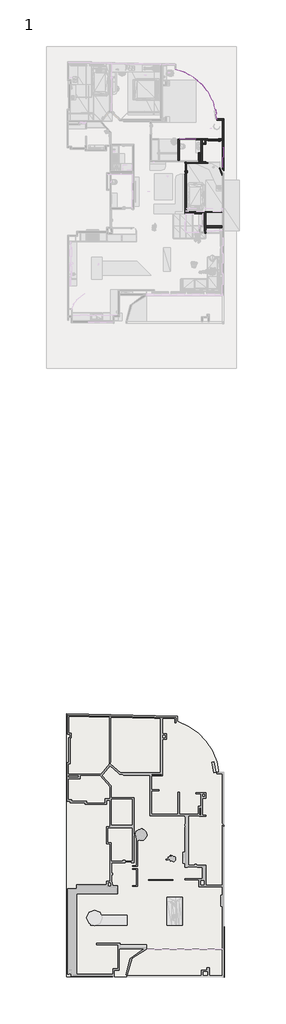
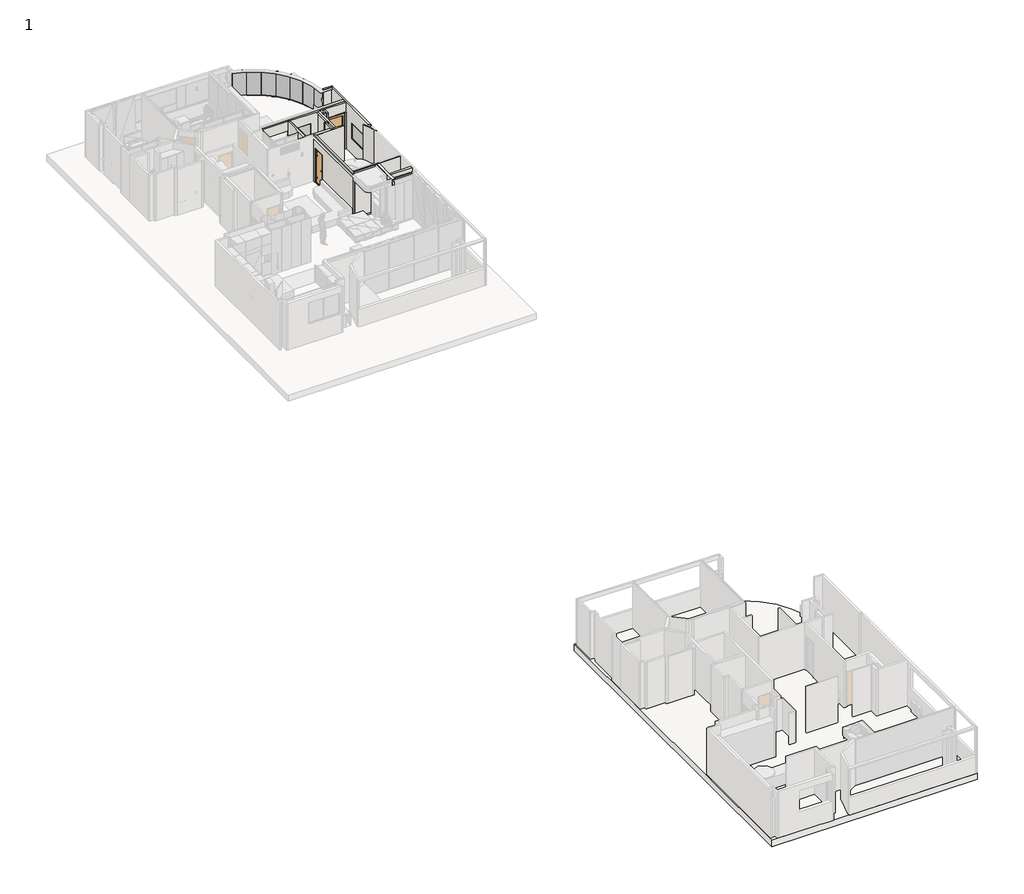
# One storey, part 7 of 11: 31 members, 22 walls, 10 plates, 2 doors, 1 slab.
"""IFC4 building model written with IfcOpenShell, lengths in millimetres."""

from ifc_helpers import new_model, si_unit, point, frame, frame_2d, origin, origin_with_axes, place, context, project, spatial, polyline, circle_curve, trimmed, segment, composite_curve, outline, extrude, faceted_brep, transform, mapped, element, save
from ifc_brep_helpers import plane_surface, revolved_surface, advanced_brep
from components import door_e8a2ffe3, door_630a3fa6, rectangular_mullion_30mm_square_d98c7422, rectangular_mullion_30mm_square_ba462b89, rectangular_mullion_30mm_square_e9650f26, rectangular_mullion_30mm_square_90ac73ab, rectangular_mullion_30mm_square_67cf9652, rectangular_mullion_30mm_square_5ef435d1, rectangular_mullion_rectangular_mullion_fg_bottom_20mm_7ce49348, rectangular_mullion_rectangular_mullion_fg_bottom_20mm_b0543de7, rectangular_mullion_rectangular_mullion_fg_right_20mm_ced86535, rectangular_mullion_rectangular_mullion_fg_top_20mm_b5ec766e, rectangular_mullion_rectangular_mullion_fg_top_20mm_3f20b25a, rectangular_mullion_rectangular_mullion_fg_top_20mm_16574b92, rectangular_mullion_rectangular_mullion_fg_vertical_20_200451c2, plate_da70822d, plate_e5ab7671, plate_d9877c03

model = new_model("IFC4")

# Units and contexts
model_context = context("Model", 3, world=origin())
ifc_project = project(units=[si_unit("LENGTHUNIT", "METRE", prefix="MILLI")], contexts=[model_context])

# Site, building, storey
site = spatial("IfcSite", under=ifc_project)
building = spatial("IfcBuilding", under=site)
storey = spatial("IfcBuildingStorey", under=building, Name="1", Elevation=0.0)

# Doors
placement = place(None, origin())
door_shape = door_e8a2ffe3(model_context)
element("IfcDoor", 1, ObjectType="Porte vitrée MéO : Porte vitrée MéO", at=placement, inside=storey, context=model_context, shape_type="MappedRepresentation", body=[
    mapped(door_shape, transform((98958.9736341, 19992.3905873, 0.0), x_axis=(1.0, 0.0, 0.0), y_axis=(0.0, 1.0, 0.0), z_axis=(0.0, 0.0, 1.0))),
])
door_2_shape = door_630a3fa6(model_context)
element("IfcDoor", 2, ObjectType="JW_Interior_Door_Steady_411_Single_1.0 : 790 x 1890 mm - M8 x M19 2 gray 2", at=placement, inside=storey, context=model_context, shape_type="MappedRepresentation", body=[
    mapped(door_2_shape, transform((96723.359081, 17729.4281393, 0.0), x_axis=(0.0, 1.0, 0.0), y_axis=(-1.0, 0.0, 0.0), z_axis=(0.0, 0.0, 1.0))),
])

# Members
rectangular_mullion_30mm_square_shape = rectangular_mullion_30mm_square_d98c7422(model_context)
element("IfcMember", 3, ObjectType="Rectangular Mullion : 30mm Square", at=placement, inside=storey, context=model_context, shape_type="MappedRepresentation", body=[
    mapped(rectangular_mullion_30mm_square_shape, transform((99648.9736341, 19368.5737587, 1941.4512315), x_axis=(0.0, 0.0, 1.0), y_axis=(1.0, 0.0, 0.0), z_axis=(0.0, 1.0, 0.0))),
])
element("IfcMember", 4, ObjectType="Rectangular Mullion : 30mm Square", at=placement, inside=storey, context=model_context, shape_type="MappedRepresentation", body=[
    mapped(rectangular_mullion_30mm_square_shape, transform((99648.9736341, 17828.5737587, 953.2437697), x_axis=(0.0, 0.0, -1.0), y_axis=(1.0, 0.0, 0.0), z_axis=(0.0, -1.0, 0.0))),
])
rectangular_mullion_30mm_square_2_shape = rectangular_mullion_30mm_square_ba462b89(model_context)
element("IfcMember", 5, ObjectType="Rectangular Mullion : 30mm Square", at=placement, inside=storey, context=model_context, shape_type="MappedRepresentation", body=[
    mapped(rectangular_mullion_30mm_square_2_shape, transform((99648.9736341, 19398.5737587, 953.2437697), x_axis=(0.0, 1.0, 0.0), y_axis=(1.0, 0.0, 0.0), z_axis=(0.0, 0.0, -1.0))),
])
element("IfcMember", 6, ObjectType="Rectangular Mullion : 30mm Square", at=placement, inside=storey, context=model_context, shape_type="MappedRepresentation", body=[
    mapped(rectangular_mullion_30mm_square_2_shape, transform((99648.9736341, 17798.5737587, 1941.4512315), x_axis=(0.0, -1.0, 0.0), y_axis=(1.0, 0.0, 0.0), z_axis=(0.0, 0.0, 1.0))),
])
rectangular_mullion_30mm_square_3_shape = rectangular_mullion_30mm_square_e9650f26(model_context)
element("IfcMember", 7, ObjectType="Rectangular Mullion : 30mm Square", at=placement, inside=storey, context=model_context, shape_type="MappedRepresentation", body=[
    mapped(rectangular_mullion_30mm_square_3_shape, transform((96254.9879055, 20015.7813206, 2320.0), x_axis=(0.0, 0.0, 1.0), y_axis=(0.0, 1.0, 0.0), z_axis=(-1.0, 0.0, 0.0))),
])
rectangular_mullion_30mm_square_4_shape = rectangular_mullion_30mm_square_90ac73ab(model_context)
element("IfcMember", 8, ObjectType="Rectangular Mullion : 30mm Square", at=placement, inside=storey, context=model_context, shape_type="MappedRepresentation", body=[
    mapped(rectangular_mullion_30mm_square_4_shape, transform((97496.0847603, 20015.7813206, 0.0), x_axis=(0.0, 0.0, -1.0), y_axis=(0.0, 1.0, 0.0), z_axis=(1.0, 0.0, 0.0))),
])
element("IfcMember", 9, ObjectType="Rectangular Mullion : 30mm Square", at=placement, inside=storey, context=model_context, shape_type="MappedRepresentation", body=[
    mapped(rectangular_mullion_30mm_square_4_shape, transform((96741.0847603, 20015.7813206, 2320.0), x_axis=(0.0, 0.0, 1.0), y_axis=(0.0, 1.0, 0.0), z_axis=(-1.0, 0.0, 0.0))),
])
element("IfcMember", 10, ObjectType="Rectangular Mullion : 30mm Square", at=placement, inside=storey, context=model_context, shape_type="MappedRepresentation", body=[
    mapped(rectangular_mullion_30mm_square_3_shape, transform((96711.0847603, 20015.7813206, 0.0), x_axis=(0.0, 0.0, -1.0), y_axis=(0.0, 1.0, 0.0), z_axis=(1.0, 0.0, 0.0))),
])
rectangular_mullion_30mm_square_5_shape = rectangular_mullion_30mm_square_67cf9652(model_context)
element("IfcMember", 11, ObjectType="Rectangular Mullion : 30mm Square", at=placement, inside=storey, context=model_context, shape_type="MappedRepresentation", body=[
    mapped(rectangular_mullion_30mm_square_5_shape, transform((96726.0847603, 20015.7813206, 0.0), x_axis=(-1.0, 0.0, 0.0), y_axis=(0.0, 1.0, 0.0), z_axis=(0.0, 0.0, -1.0))),
])
rectangular_mullion_30mm_square_6_shape = rectangular_mullion_30mm_square_5ef435d1(model_context)
element("IfcMember", 12, ObjectType="Rectangular Mullion : 30mm Square", at=placement, inside=storey, context=model_context, shape_type="MappedRepresentation", body=[
    mapped(rectangular_mullion_30mm_square_6_shape, transform((96224.9879055, 20015.7813206, 0.0), x_axis=(-1.0, 0.0, 0.0), y_axis=(0.0, 1.0, 0.0), z_axis=(0.0, 0.0, -1.0))),
])
element("IfcMember", 13, ObjectType="Rectangular Mullion : 30mm Square", at=placement, inside=storey, context=model_context, shape_type="MappedRepresentation", body=[
    mapped(rectangular_mullion_30mm_square_6_shape, transform((97526.0847603, 20015.7813206, 2320.0), x_axis=(1.0, 0.0, 0.0), y_axis=(0.0, 1.0, 0.0), z_axis=(0.0, 0.0, 1.0))),
])
rectangular_mullion_rectangular_mullion_fg_bottom_20mm_shape = rectangular_mullion_rectangular_mullion_fg_bottom_20mm_7ce49348(model_context)
element("IfcMember", 14, ObjectType="Rectangular Mullion : Rectangular Mullion-FG Bottom 20mm", at=placement, inside=storey, context=model_context, shape_type="MappedRepresentation", body=[
    mapped(rectangular_mullion_rectangular_mullion_fg_bottom_20mm_shape, transform((96656.0133049, 25186.2590743, 1217.4752087), x_axis=(0.0, 0.0, -1.0), y_axis=(-0.48894831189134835, -0.8723127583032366, 0.0), z_axis=(-0.8723127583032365, 0.4889483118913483, 0.0))),
])
element("IfcMember", 15, ObjectType="Rectangular Mullion : Rectangular Mullion-FG Bottom 20mm", at=placement, inside=storey, context=model_context, shape_type="MappedRepresentation", body=[
    mapped(rectangular_mullion_rectangular_mullion_fg_bottom_20mm_shape, transform((97331.1362465, 24807.8395001, 1217.4752087), x_axis=(0.0, 0.0, -1.0), y_axis=(-0.6403779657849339, -0.7680599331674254, 0.0), z_axis=(-0.7680599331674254, 0.6403779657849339, 0.0))),
])
element("IfcMember", 16, ObjectType="Rectangular Mullion : Rectangular Mullion-FG Bottom 20mm", at=placement, inside=storey, context=model_context, shape_type="MappedRepresentation", body=[
    mapped(rectangular_mullion_rectangular_mullion_fg_bottom_20mm_shape, transform((97925.5731344, 24312.2215559, 1217.4752087), x_axis=(0.0, 0.0, -1.0), y_axis=(-0.7701631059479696, -0.6378469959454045, 0.0), z_axis=(-0.6378469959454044, 0.7701631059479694, 0.0))),
])
element("IfcMember", 17, ObjectType="Rectangular Mullion : Rectangular Mullion-FG Bottom 20mm", at=placement, inside=storey, context=model_context, shape_type="MappedRepresentation", body=[
    mapped(rectangular_mullion_rectangular_mullion_fg_bottom_20mm_shape, transform((98419.2322447, 23716.1569259, 1217.4752087), x_axis=(0.0, 0.0, -1.0), y_axis=(-0.8739170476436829, -0.4860750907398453, 0.0), z_axis=(-0.4860750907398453, 0.8739170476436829, 0.0))),
])
element("IfcMember", 18, ObjectType="Rectangular Mullion : Rectangular Mullion-FG Bottom 20mm", at=placement, inside=storey, context=model_context, shape_type="MappedRepresentation", body=[
    mapped(rectangular_mullion_rectangular_mullion_fg_bottom_20mm_shape, transform((98795.428101, 23039.7923511, 1217.4752087), x_axis=(0.0, 0.0, -1.0), y_axis=(-0.9481329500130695, -0.31787404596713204, 0.0), z_axis=(-0.317874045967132, 0.9481329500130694, 0.0))),
])
rectangular_mullion_rectangular_mullion_fg_bottom_20mm_2_shape = rectangular_mullion_rectangular_mullion_fg_bottom_20mm_b0543de7(model_context)
element("IfcMember", 19, ObjectType="Rectangular Mullion : Rectangular Mullion-FG Bottom 20mm", at=placement, inside=storey, context=model_context, shape_type="MappedRepresentation", body=[
    mapped(rectangular_mullion_rectangular_mullion_fg_bottom_20mm_2_shape, transform((99041.445437, 22305.9886779, 1217.4752087), x_axis=(0.0, 0.0, -1.0), y_axis=(-0.9903023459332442, -0.13892898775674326, 0.0), z_axis=(-0.13892898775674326, 0.9903023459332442, 0.0))),
])
rectangular_mullion_rectangular_mullion_fg_right_20mm_shape = rectangular_mullion_rectangular_mullion_fg_right_20mm_ced86535(model_context)
element("IfcMember", 20, ObjectType="Rectangular Mullion : Rectangular Mullion-FG Right 20mm", at=placement, inside=storey, context=model_context, shape_type="MappedRepresentation", body=[
    mapped(rectangular_mullion_rectangular_mullion_fg_right_20mm_shape, transform((99148.9689674, 21539.5481667, 1237.4752087), x_axis=(0.13892898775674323, -0.9903023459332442, 0.0), y_axis=(-0.9903023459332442, -0.13892898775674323, 0.0), z_axis=(0.0, 0.0, -1.0))),
])
rectangular_mullion_rectangular_mullion_fg_top_20mm_shape = rectangular_mullion_rectangular_mullion_fg_top_20mm_b5ec766e(model_context)
element("IfcMember", 21, ObjectType="Rectangular Mullion : Rectangular Mullion-FG Top 20mm", at=placement, inside=storey, context=model_context, shape_type="MappedRepresentation", body=[
    mapped(rectangular_mullion_rectangular_mullion_fg_top_20mm_shape, transform((97331.1362465, 24807.8395001, 2823.8206794), x_axis=(0.0, 0.0, 1.0), y_axis=(-0.48894831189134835, -0.8723127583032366, 0.0), z_axis=(0.8723127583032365, -0.4889483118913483, 0.0))),
])
element("IfcMember", 22, ObjectType="Rectangular Mullion : Rectangular Mullion-FG Top 20mm", at=placement, inside=storey, context=model_context, shape_type="MappedRepresentation", body=[
    mapped(rectangular_mullion_rectangular_mullion_fg_top_20mm_shape, transform((97925.5731344, 24312.2215559, 2823.8206794), x_axis=(0.0, 0.0, 1.0), y_axis=(-0.6403779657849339, -0.7680599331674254, 0.0), z_axis=(0.7680599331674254, -0.6403779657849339, 0.0))),
])
element("IfcMember", 23, ObjectType="Rectangular Mullion : Rectangular Mullion-FG Top 20mm", at=placement, inside=storey, context=model_context, shape_type="MappedRepresentation", body=[
    mapped(rectangular_mullion_rectangular_mullion_fg_top_20mm_shape, transform((98419.2322447, 23716.1569259, 2823.8206794), x_axis=(0.0, 0.0, 1.0), y_axis=(-0.7701631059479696, -0.6378469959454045, 0.0), z_axis=(0.6378469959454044, -0.7701631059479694, 0.0))),
])
element("IfcMember", 24, ObjectType="Rectangular Mullion : Rectangular Mullion-FG Top 20mm", at=placement, inside=storey, context=model_context, shape_type="MappedRepresentation", body=[
    mapped(rectangular_mullion_rectangular_mullion_fg_top_20mm_shape, transform((98795.428101, 23039.7923511, 2823.8206794), x_axis=(0.0, 0.0, 1.0), y_axis=(-0.8739170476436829, -0.4860750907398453, 0.0), z_axis=(0.4860750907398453, -0.8739170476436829, 0.0))),
])
element("IfcMember", 25, ObjectType="Rectangular Mullion : Rectangular Mullion-FG Top 20mm", at=placement, inside=storey, context=model_context, shape_type="MappedRepresentation", body=[
    mapped(rectangular_mullion_rectangular_mullion_fg_top_20mm_shape, transform((99041.445437, 22305.9886779, 2823.8206794), x_axis=(0.0, 0.0, 1.0), y_axis=(-0.9481329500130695, -0.31787404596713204, 0.0), z_axis=(0.317874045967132, -0.9481329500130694, 0.0))),
])
rectangular_mullion_rectangular_mullion_fg_top_20mm_2_shape = rectangular_mullion_rectangular_mullion_fg_top_20mm_3f20b25a(model_context)
element("IfcMember", 26, ObjectType="Rectangular Mullion : Rectangular Mullion-FG Top 20mm", at=placement, inside=storey, context=model_context, shape_type="MappedRepresentation", body=[
    mapped(rectangular_mullion_rectangular_mullion_fg_top_20mm_2_shape, transform((99148.9689674, 21539.5481667, 2823.8206794), x_axis=(0.0, 0.0, 1.0), y_axis=(-0.9903023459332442, -0.13892898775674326, 0.0), z_axis=(0.13892898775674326, -0.9903023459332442, 0.0))),
])
rectangular_mullion_rectangular_mullion_fg_top_20mm_3_shape = rectangular_mullion_rectangular_mullion_fg_top_20mm_16574b92(model_context)
element("IfcMember", 27, ObjectType="Rectangular Mullion : Rectangular Mullion-FG Top 20mm", at=placement, inside=storey, context=model_context, shape_type="MappedRepresentation", body=[
    mapped(rectangular_mullion_rectangular_mullion_fg_top_20mm_3_shape, transform((96656.0133049, 25186.2590743, 2823.8206794), x_axis=(0.0, 0.0, 1.0), y_axis=(-0.3209924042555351, -0.9470817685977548, 0.0), z_axis=(0.9470817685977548, -0.3209924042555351, 0.0))),
])
rectangular_mullion_rectangular_mullion_fg_vertical_20_shape = rectangular_mullion_rectangular_mullion_fg_vertical_20_200451c2(model_context)
element("IfcMember", 28, ObjectType="Rectangular Mullion : Rectangular Mullion-FG Vertical 20", at=placement, inside=storey, context=model_context, shape_type="MappedRepresentation", body=[
    mapped(rectangular_mullion_rectangular_mullion_fg_vertical_20_shape, transform((96656.0133049, 25186.2590743, 1237.4752087), x_axis=(0.9135652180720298, -0.40669225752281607, 0.0), y_axis=(-0.40669225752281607, -0.9135652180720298, 0.0), z_axis=(0.0, 0.0, -1.0))),
])
element("IfcMember", 29, ObjectType="Rectangular Mullion : Rectangular Mullion-FG Vertical 20", at=placement, inside=storey, context=model_context, shape_type="MappedRepresentation", body=[
    mapped(rectangular_mullion_rectangular_mullion_fg_vertical_20_shape, transform((97331.1362465, 24807.8395001, 1237.4752087), x_axis=(0.8236737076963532, -0.5670640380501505, 0.0), y_axis=(-0.5670640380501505, -0.8236737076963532, 0.0), z_axis=(0.0, 0.0, -1.0))),
])
element("IfcMember", 30, ObjectType="Rectangular Mullion : Rectangular Mullion-FG Vertical 20", at=placement, inside=storey, context=model_context, shape_type="MappedRepresentation", body=[
    mapped(rectangular_mullion_rectangular_mullion_fg_vertical_20_shape, transform((97925.5731344, 24312.2215559, 1237.4752087), x_axis=(0.7059423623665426, -0.7082692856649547, 0.0), y_axis=(-0.7082692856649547, -0.7059423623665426, 0.0), z_axis=(0.0, 0.0, -1.0))),
])
element("IfcMember", 31, ObjectType="Rectangular Mullion : Rectangular Mullion-FG Vertical 20", at=placement, inside=storey, context=model_context, shape_type="MappedRepresentation", body=[
    mapped(rectangular_mullion_rectangular_mullion_fg_vertical_20_shape, transform((98419.2322447, 23716.1569259, 1237.4752087), x_axis=(0.5643504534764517, -0.8255353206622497, 0.0), y_axis=(-0.8255353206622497, -0.5643504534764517, 0.0), z_axis=(0.0, 0.0, -1.0))),
])
element("IfcMember", 32, ObjectType="Rectangular Mullion : Rectangular Mullion-FG Vertical 20", at=placement, inside=storey, context=model_context, shape_type="MappedRepresentation", body=[
    mapped(rectangular_mullion_rectangular_mullion_fg_vertical_20_shape, transform((98795.428101, 23039.7923511, 1237.4752087), x_axis=(0.40368372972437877, -0.9148985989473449, 0.0), y_axis=(-0.9148985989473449, -0.40368372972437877, 0.0), z_axis=(0.0, 0.0, -1.0))),
])
element("IfcMember", 33, ObjectType="Rectangular Mullion : Rectangular Mullion-FG Vertical 20", at=placement, inside=storey, context=model_context, shape_type="MappedRepresentation", body=[
    mapped(rectangular_mullion_rectangular_mullion_fg_vertical_20_shape, transform((99041.445437, 22305.9886779, 1237.4752087), x_axis=(0.22937266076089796, -0.9733386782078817, 0.0), y_axis=(-0.9733386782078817, -0.22937266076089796, 0.0), z_axis=(0.0, 0.0, -1.0))),
])

# Plates
plate_shape = plate_da70822d(model_context)
element("IfcPlate", 34, ObjectType="Panel Flex Glassline_10mm : Panel Flex Glassline_10mm", at=placement, inside=storey, context=model_context, shape_type="MappedRepresentation", body=[
    mapped(plate_shape, transform((96298.9890629, 25307.2645393, 1227.4752087), x_axis=(0.9470817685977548, -0.3209924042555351, 0.0), y_axis=(0.3209924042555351, 0.9470817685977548, 0.0), z_axis=(0.0, 0.0, 1.0))),
])
plate_2_shape = plate_e5ab7671(model_context)
element("IfcPlate", 35, ObjectType="Panel Flex Glassline_10mm : Panel Flex Glassline_10mm", at=placement, inside=storey, context=model_context, shape_type="MappedRepresentation", body=[
    mapped(plate_2_shape, transform((96993.5747757, 24997.0492872, 1227.4752087), x_axis=(0.8723127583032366, -0.48894831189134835, 0.0), y_axis=(0.48894831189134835, 0.8723127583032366, 0.0), z_axis=(0.0, 0.0, 1.0))),
])
element("IfcPlate", 36, ObjectType="Panel Flex Glassline_10mm : Panel Flex Glassline_10mm", at=placement, inside=storey, context=model_context, shape_type="MappedRepresentation", body=[
    mapped(plate_2_shape, transform((97628.3546904, 24560.030528, 1227.4752087), x_axis=(0.7680599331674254, -0.6403779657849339, 0.0), y_axis=(0.6403779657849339, 0.7680599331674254, 0.0), z_axis=(0.0, 0.0, 1.0))),
])
element("IfcPlate", 37, ObjectType="Panel Flex Glassline_10mm : Panel Flex Glassline_10mm", at=placement, inside=storey, context=model_context, shape_type="MappedRepresentation", body=[
    mapped(plate_2_shape, transform((98172.4026895, 24014.1892409, 1227.4752087), x_axis=(0.6378469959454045, -0.7701631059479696, 0.0), y_axis=(0.7701631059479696, 0.6378469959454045, 0.0), z_axis=(0.0, 0.0, 1.0))),
])
element("IfcPlate", 38, ObjectType="Panel Flex Glassline_10mm : Panel Flex Glassline_10mm", at=placement, inside=storey, context=model_context, shape_type="MappedRepresentation", body=[
    mapped(plate_2_shape, transform((98607.3301728, 23377.9746385, 1227.4752087), x_axis=(0.4860750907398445, -0.8739170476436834, 0.0), y_axis=(0.8739170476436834, 0.4860750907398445, 0.0), z_axis=(0.0, 0.0, 1.0))),
])
element("IfcPlate", 39, ObjectType="Panel Flex Glassline_10mm : Panel Flex Glassline_10mm", at=placement, inside=storey, context=model_context, shape_type="MappedRepresentation", body=[
    mapped(plate_2_shape, transform((98918.436769, 22672.8905145, 1227.4752087), x_axis=(0.3178740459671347, -0.9481329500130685, 0.0), y_axis=(0.9481329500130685, 0.3178740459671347, 0.0), z_axis=(0.0, 0.0, 1.0))),
])
plate_3_shape = plate_d9877c03(model_context)
element("IfcPlate", 40, ObjectType="Panel Flex Glassline_10mm : Panel Flex Glassline_10mm", at=placement, inside=storey, context=model_context, shape_type="MappedRepresentation", body=[
    mapped(plate_3_shape, transform((99093.4705898, 21935.1472016, 1227.4752087), x_axis=(0.13892898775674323, -0.9903023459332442, 0.0), y_axis=(0.9903023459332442, 0.13892898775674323, 0.0), z_axis=(0.0, 0.0, 1.0))),
])
element("IfcPlate", 41, ObjectType="glass", at=placement, inside=storey, context=model_context, shape_type="SweptSolid", body=[
    extrude(outline(polyline([(99651.4736341, 19368.5737587), (99651.4736341, 17828.5737587), (99646.4736341, 17828.5737587), (99646.4736341, 19368.5737587), (99651.4736341, 19368.5737587)])), frame((0.0, 0.0, 983.2437697), z_axis=(0.0, 0.0, 1.0), x_axis=(1.0, 0.0, 0.0)), (0.0, 0.0, 1.0), 928.2074618),
])
element("IfcPlate", 42, ObjectType="glass", at=placement, inside=storey, context=model_context, shape_type="SweptSolid", body=[
    extrude(outline(polyline([(96254.9879055, 20018.2813206), (96711.0847603, 20018.2813206), (96711.0847603, 20013.2813206), (96254.9879055, 20013.2813206), (96254.9879055, 20018.2813206)])), frame((0.0, 0.0, 30.0), z_axis=(0.0, 0.0, 1.0), x_axis=(1.0, 0.0, 0.0)), (0.0, 0.0, 1.0), 2260.0),
])
element("IfcPlate", 43, ObjectType="glass", at=placement, inside=storey, context=model_context, shape_type="SweptSolid", body=[
    extrude(outline(polyline([(96741.0847603, 20018.2813206), (97496.0847603, 20018.2813206), (97496.0847603, 20013.2813206), (96741.0847603, 20013.2813206), (96741.0847603, 20018.2813206)])), frame((0.0, 0.0, 30.0), z_axis=(0.0, 0.0, 1.0), x_axis=(1.0, 0.0, 0.0)), (0.0, 0.0, 1.0), 2260.0),
])

# Slab
element("IfcSlab", 44, ObjectType="40", at=placement, inside=storey, context=model_context, shape_type="SweptSolid", body=[
    extrude(outline(composite_curve([segment(polyline([(99723.0356587, -45134.1984409), (87472.8142829, -45081.3821758), (87472.8142829, -24655.9187298), (96085.4833, -24848.348466), (96080.4766381, -25248.8151051)]), True, "CONTINUOUS"), segment(trimmed(circle_curve(frame_2d((94731.7076088, -29629.0021339)), 4583.1448048), [point((96080.4766381, -25248.8151051))], [point((99301.2285288, -29275.8805347))], False, "CARTESIAN"), True, "CONTINUOUS"), segment(polyline([(99301.2285288, -29275.8805347), (99659.5330389, -29275.8805347), (99723.0356587, -45134.1984409)]), True, "CONTINUOUS")], self_intersect=False)), frame((0.0, 0.0, -400.0), z_axis=(0.0, 0.0, 1.0), x_axis=(1.0, 0.0, 0.0)), (0.0, 0.0, 1.0), 400.0),
])

# Walls
element("IfcWall", 45, ObjectType=".016", at=placement, inside=storey, context=model_context, shape_type="SweptSolid", body=[
    extrude(outline(polyline([(98452.2456554, 18145.950834), (96783.359081, 18145.950834), (96783.359081, 18161.950834), (98294.3360055, 18161.950834), (98312.5848823, 18161.1410433), (98312.6219967, 18161.950834), (98452.2456554, 18161.950834), (98452.2456554, 18145.950834)])), origin_with_axes(), (0.0, 0.0, 1.0), 2930.0),
])
element("IfcWall", 46, ObjectType=".016", at=placement, inside=storey, context=model_context, shape_type="SweptSolid", body=[
    extrude(outline(polyline([(97.3469012, 99600.3620703), (2930.0, 99600.3620703), (2930.0, 98320.3620703), (97.3469012, 98320.3620703), (97.3469012, 98947.8538665), (2230.0, 98947.8538665), (2230.0, 98962.8538665), (97.3469012, 98962.8538665), (97.3469012, 99600.3620703)])), frame((0.0, 14340.0304058, 0.0), z_axis=(0.0, 1.0, 0.0), x_axis=(0.0, 0.0, 1.0)), (0.0, 0.0, 1.0), 16.0),
])
element("IfcWall", 47, ObjectType=".016", at=placement, inside=storey, context=model_context, shape_type="Brep", body=[
    faceted_brep([(98319.1043164, 14320.5358144, 0.0), (99600.3620703, 14320.5358144, 0.0), (99600.3620703, 14320.5358144, 100.0), (98319.1043164, 14320.5358144, 100.0), (98319.1043164, 14336.5358144, 0.0), (98319.1043164, 14336.5358144, 97.3469012), (98319.1043164, 14336.5358144, 100.0), (99600.3620703, 14336.5358144, 100.0), (99600.3620703, 14336.5358144, 0.0)], [[[0, 1, 2, 3]], [[4, 5, 6, 7, 8]], [[1, 0, 4, 8]], [[2, 1, 8, 7]], [[3, 2, 7, 6]], [[0, 3, 6, 5, 4]]]),
])
element("IfcWall", 48, ObjectType=".016", at=placement, inside=storey, context=model_context, shape_type="SweptSolid", body=[
    extrude(outline(polyline([(97.3469012, 96791.5229621), (97.3469012, 98319.1043164), (2930.0, 98319.1043164), (2930.0, 96791.5229621), (97.3469012, 96791.5229621)]), holes=[polyline([(407.0710678, 98284.0401558), (325.9210678, 98284.0401558), (325.9210678, 98202.9401558), (407.0710678, 98202.9401558), (407.0710678, 98284.0401558)]), polyline([(404.0285157, 98199.0401558), (322.8785157, 98199.0401558), (322.8785157, 98117.9401558), (404.0285157, 98117.9401558), (404.0285157, 98199.0401558)])]), frame((0.0, 14356.0304058, 0.0), z_axis=(0.0, 1.0, 0.0), x_axis=(0.0, 0.0, 1.0)), (0.0, 0.0, 1.0), 16.0),
])
element("IfcWall", 49, ObjectType="10", at=placement, inside=storey, context=model_context, shape_type="Brep", body=[
    faceted_brep([(99698.9736341, 21589.5481667, 0.0), (99148.9689674, 21589.5481667, 0.0), (99148.9689674, 21589.5481667, 2930.0), (99698.9736341, 21589.5481667, 2930.0), (99698.9736341, 21489.5481667, 0.0), (99698.9736341, 21489.5481667, 2930.0), (99598.9736341, 21489.5481667, 2930.0), (99148.9689674, 21489.5481667, 2930.0), (99148.9689674, 21489.5481667, 0.0), (99598.9736341, 21489.5481667, 0.0)], [[[0, 1, 2, 3]], [[4, 5, 6, 7, 8, 9]], [[1, 0, 4, 9, 8]], [[2, 1, 8, 7]], [[3, 2, 7, 6, 5]], [[0, 3, 5, 4]]]),
])
element("IfcWall", 50, ObjectType="10", at=placement, inside=storey, context=model_context, shape_type="SweptSolid", body=[
    extrude(outline(polyline([(96124.9879055, 18334.4281393), (96124.9879055, 19952.3905873), (96224.9879055, 19952.3905873), (96224.9879055, 18334.4281393), (96124.9879055, 18334.4281393)])), origin_with_axes(), (0.0, 0.0, 1.0), 2930.0),
])
element("IfcWall", 51, ObjectType="10", at=placement, inside=storey, context=model_context, shape_type="Brep", body=[
    faceted_brep([(99598.9736341, 19952.3905873, 2930.0), (98317.1233978, 19952.3905873, 2930.0), (98217.1221907, 19952.3905873, 2930.0), (98018.8776741, 19952.3905873, 2930.0), (97918.8776741, 19952.3905873, 2930.0), (96224.9879055, 19952.3905873, 2930.0), (96124.9879055, 19952.3905873, 2930.0), (94630.8109317, 19952.3905873, 2930.0), (94630.8109317, 19952.3905873, 2320.0), (97526.0847603, 19952.3905873, 2320.0), (97526.0847603, 19952.3905873, 0.0), (97918.8776741, 19952.3905873, 0.0), (98018.8776741, 19952.3905873, 0.0), (98217.1221907, 19952.3905873, 0.0), (98317.2216686, 19952.3905873, 0.0), (98317.2216686, 19952.3905873, 2320.0), (98425.9736341, 19952.3905873, 2320.0), (98425.9736341, 19952.3905873, 2334.0), (99491.9736341, 19952.3905873, 2334.0), (99491.9736341, 19952.3905873, 2320.0), (99598.9736341, 19952.3905873, 2320.0), (97589.2770097, 19952.3905873, 933.1545614), (97589.2770097, 19952.3905873, 1014.3045614), (97670.3770097, 19952.3905873, 1014.3045614), (97670.3770097, 19952.3905873, 933.1545614), (94630.8109317, 20052.3905873, 2930.0), (99598.9736341, 20052.3905873, 2930.0), (99598.9736341, 20052.3905873, 2320.0), (98317.2216686, 20052.3905873, 2320.0), (98317.2216686, 20052.3905873, 0.0), (97526.0847603, 20052.3905873, 0.0), (97526.0847603, 20052.3905873, 2320.0), (94630.8109317, 20052.3905873, 2320.0), (99491.9736341, 20027.3905873, 2320.0), (98425.9736341, 20027.3905873, 2320.0), (98425.9736341, 20027.3905873, 2334.0), (99491.9736341, 20027.3905873, 2334.0), (97589.2770097, 19977.3905873, 1014.3045614), (97589.2770097, 19977.3905873, 933.1545614), (97670.3770097, 19977.3905873, 933.1545614), (97670.3770097, 19977.3905873, 1014.3045614)], [[[0, 1, 2, 3, 4, 5, 6, 7, 8, 9, 10, 11, 12, 13, 14, 15, 16, 17, 18, 19, 20], [21, 22, 23, 24]], [[25, 26, 27, 28, 29, 30, 31, 32]], [[0, 20, 27, 26]], [[15, 28, 27, 20, 19, 33, 34, 16]], [[28, 15, 14, 29]], [[14, 13, 12, 11, 10, 30, 29]], [[7, 6, 5, 4, 3, 2, 1, 0, 26, 25]], [[10, 9, 31, 30]], [[8, 7, 25, 32]], [[9, 8, 32, 31]], [[35, 36, 18, 17]], [[36, 33, 19, 18]], [[34, 35, 17, 16]], [[36, 35, 34, 33]], [[37, 38, 39, 40]], [[38, 37, 22, 21]], [[39, 38, 21, 24]], [[40, 39, 24, 23]], [[37, 40, 23, 22]]]),
])
element("IfcWall", 52, ObjectType="10", at=placement, inside=storey, context=model_context, shape_type="Brep", body=[
    faceted_brep([(98217.1221907, 19952.3905873, 2930.0), (98217.1221907, 19952.3905873, 0.0), (98218.3887344, 19694.6245576, 0.0), (98218.8800884, 19594.6245576, 0.0), (98218.8800884, 19594.6245576, 2930.0), (98218.3887344, 19694.6245576, 2930.0), (98317.1233978, 19952.3905873, 0.0), (98317.1233978, 19952.3905873, 2930.0), (98318.8812955, 19594.6245576, 2930.0), (98318.8812955, 19594.6245576, 0.0), (98317.2216686, 19932.3905873, 0.0)], [[[0, 1, 2, 3, 4, 5]], [[6, 7, 8, 9, 10]], [[3, 2, 1, 6, 10, 9]], [[0, 5, 4, 8, 7]], [[4, 3, 9, 8]], [[0, 7, 6, 1]]]),
])
element("IfcWall", 53, ObjectType="10", at=placement, inside=storey, context=model_context, shape_type="SweptSolid", body=[
    extrude(outline(polyline([(98018.8776741, 19694.6245576), (98218.3887344, 19694.6245576), (98218.8800884, 19594.6245576), (98018.8776741, 19594.6245576), (98018.8776741, 19694.6245576)])), origin_with_axes(), (0.0, 0.0, 1.0), 2930.0),
])
element("IfcWall", 54, ObjectType="10", at=placement, inside=storey, context=model_context, shape_type="Brep", body=[
    faceted_brep([(97918.8776741, 19952.3905873, 0.0), (97918.8776741, 18958.8111171, 0.0), (97918.8776741, 18858.8111171, 0.0), (97918.8776741, 18278.710138, 0.0), (97918.8776741, 18278.710138, 2930.0), (97918.8776741, 18858.8111171, 2930.0), (97918.8776741, 18958.8111171, 2930.0), (97918.8776741, 19952.3905873, 2930.0), (98018.8776741, 19952.3905873, 0.0), (98018.8776741, 19952.3905873, 2930.0), (98018.8776741, 19694.6245576, 2930.0), (98018.8776741, 19594.6245576, 2930.0), (98018.8776741, 18274.2726559, 2930.0), (98018.8776741, 18274.2726559, 0.0), (98018.8776741, 19594.6245576, 0.0), (98018.8776741, 19694.6245576, 0.0)], [[[0, 1, 2, 3, 4, 5, 6, 7]], [[8, 9, 10, 11, 12, 13, 14, 15]], [[3, 2, 1, 0, 8, 15, 14, 13]], [[7, 6, 5, 4, 12, 11, 10, 9]], [[4, 3, 13, 12]], [[0, 7, 9, 8]]]),
])
element("IfcWall", 55, ObjectType="10", at=placement, inside=storey, context=model_context, shape_type="Brep", body=[
    faceted_brep([(97809.8270097, 18234.4281393, 0.0), (97809.8270097, 18283.5492418, 0.0), (97809.8270097, 18858.8111171, 0.0), (97809.8270097, 18858.8111171, 2930.0), (97809.8270097, 18283.5492418, 2930.0), (97809.8270097, 18234.4281393, 2930.0), (97709.8270097, 18234.4281393, 0.0), (97709.8270097, 18234.4281393, 2930.0), (97709.8270097, 18334.4281393, 2930.0), (97709.8270097, 18858.8111171, 2930.0), (97709.8270097, 18858.8111171, 0.0), (97709.8270097, 18334.4281393, 0.0)], [[[0, 1, 2, 3, 4, 5]], [[6, 7, 8, 9, 10, 11]], [[2, 1, 0, 6, 11, 10]], [[5, 4, 3, 9, 8, 7]], [[3, 2, 10, 9]], [[0, 5, 7, 6]]]),
])
element("IfcWall", 56, ObjectType="10", at=placement, inside=storey, context=model_context, shape_type="Brep", body=[
    faceted_brep([(97709.8270097, 18858.8111171, 0.0), (97809.8270097, 18858.8111171, 0.0), (97918.8776741, 18858.8111171, 0.0), (97918.8776741, 18858.8111171, 2930.0), (97809.8270097, 18858.8111171, 2930.0), (97709.8270097, 18858.8111171, 2930.0), (97709.8270097, 18958.8111171, 0.0), (97709.8270097, 18958.8111171, 2930.0), (97918.8776741, 18958.8111171, 2930.0), (97918.8776741, 18958.8111171, 0.0)], [[[0, 1, 2, 3, 4, 5]], [[6, 7, 8, 9]], [[2, 1, 0, 6, 9]], [[5, 4, 3, 8, 7]], [[0, 5, 7, 6]], [[3, 2, 9, 8]]]),
])
element("IfcWall", 57, ObjectType="10", at=placement, inside=storey, context=model_context, shape_type="Brep", body=[
    faceted_brep([(98317.1632977, 18261.0362848, 0.0), (98018.8776741, 18274.2726559, 0.0), (97918.8776741, 18278.710138, 0.0), (97809.8270097, 18283.5492418, 0.0), (97809.8270097, 18283.5492418, 2930.0), (97918.8776741, 18278.710138, 2930.0), (98018.8776741, 18274.2726559, 2930.0), (98317.1632977, 18261.0362848, 2930.0), (98312.5848823, 18161.1410433, 0.0), (98312.5848823, 18161.1410433, 2930.0), (98294.3360055, 18161.950834, 2930.0), (97809.8270097, 18183.450834, 2930.0), (97809.8270097, 18183.450834, 0.0), (98294.3360055, 18161.950834, 0.0), (98312.6219967, 18161.950834, 0.0), (97809.8270097, 18234.4281393, 0.0), (97809.8270097, 18234.4281393, 2930.0), (98312.6219967, 18161.950834, 2930.0)], [[[0, 1, 2, 3, 4, 5, 6, 7]], [[8, 9, 10, 11, 12, 13]], [[3, 2, 1, 0, 14, 8, 13, 12, 15]], [[7, 6, 5, 4, 16, 11, 10, 9, 17]], [[0, 7, 17, 9, 8, 14]], [[4, 3, 15, 12, 11, 16]]]),
])
element("IfcWall", 58, ObjectType="10", at=placement, inside=storey, context=model_context, shape_type="AdvancedBrep", body=[
    advanced_brep(
    [(99598.9736341, 21489.5481667, 0.0), (99598.9736341, 20052.3905873, 0.0), (99598.9736341, 19932.3905873, 0.0), (99598.9736341, 17654.3597181, 0.0), (99598.9736341, 17654.3597181, 2930.0), (99598.9736341, 19952.3905873, 2930.0), (99598.9736341, 20052.3905873, 2930.0), (99598.9736341, 21489.5481667, 2930.0), (99598.9736341, 17798.5737587, 1941.4512315), (99598.9736341, 17798.5737587, 953.2437697), (99598.9736341, 19398.5737587, 953.2437697), (99598.9736341, 19398.5737587, 1941.4512315), (99698.9736341, 17533.5268358, 0.0), (99698.9736341, 21489.5481667, 0.0), (99698.9736341, 21489.5481667, 2930.0), (99698.9736341, 17533.5268358, 2930.0), (99698.9736341, 17798.5737587, 953.2437697), (99698.9736341, 17798.5737587, 1941.4512315), (99698.9736341, 19398.5737587, 1941.4512315), (99698.9736341, 19398.5737587, 953.2437697)],
    [
        (0, 1),
        (1, 2),
        (2, 3),
        (3, 4),
        (4, 5),
        (5, 6),
        (6, 7),
        (7, 0),
        (8, 9),
        (9, 10),
        (10, 11),
        (11, 8),
        (12, 13),
        (13, 14),
        (14, 15),
        (15, 12),
        (16, 17),
        (17, 18),
        (18, 19),
        (19, 16),
        (0, 13),
        (12, 3, circle_curve(frame((98230.1632712, 16419.7510067, 0.0), z_axis=(0.0, 0.0, 1.0), x_axis=(1.0, 0.0, 0.0)), 1843.3394913)),
        (4, 15, circle_curve(frame((98230.1632712, 16419.7510067, 2930.0), z_axis=(0.0, 0.0, -1.0), x_axis=(1.0, 0.0, 0.0)), 1843.3394913)),
        (14, 7),
        (16, 9),
        (8, 17),
        (11, 18),
        (10, 19),
    ],
    [
        plane_surface(frame((99598.9736341, 21489.5481667, 0.0), z_axis=(-1.0, 0.0, 0.0), x_axis=(0.0, -1.0, 0.0))),
        plane_surface(frame((99698.9736341, 21489.5481667, 0.0), z_axis=(1.0, 0.0, 0.0), x_axis=(0.0, 1.0, 0.0))),
        plane_surface(frame((99598.9736341, 21539.5481667, 0.0), z_axis=(0.0, 0.0, -1.0), x_axis=(1.0, 0.0, 0.0))),
        plane_surface(frame((99598.9736341, 17516.5844876, 2930.0), z_axis=(0.0, 0.0, 1.0), x_axis=(1.0, 0.0, 0.0))),
        plane_surface(frame((99598.9736341, 21489.5481667, 0.0), z_axis=(0.0, 1.0, 0.0), x_axis=(1.0, 0.0, 0.0))),
        revolved_surface(polyline([(100073.5027625, 16419.7510067, 2930.0), (100073.5027625, 16419.7510067, 0.0)]), (98230.1632712, 16419.7510067, 0.0), (0.0, 0.0, 1.0)),
        plane_surface(frame((99446.5736341, 17798.5737587, 953.2437697), z_axis=(0.0, 1.0, 0.0), x_axis=(1.0, 0.0, 0.0))),
        plane_surface(frame((99446.5736341, 17798.5737587, 1941.4512315), z_axis=(0.0, 0.0, -1.0), x_axis=(1.0, 0.0, 0.0))),
        plane_surface(frame((99446.5736341, 19398.5737587, 1941.4512315), z_axis=(0.0, -1.0, 0.0), x_axis=(1.0, 0.0, 0.0))),
        plane_surface(frame((99446.5736341, 19398.5737587, 953.2437697), z_axis=(0.0, 0.0, 1.0), x_axis=(1.0, 0.0, 0.0))),
    ],
    [
        (0, [[1, 2, 3, 4, 5, 6, 7, 8], [9, 10, 11, 12]]),
        (1, [[13, 14, 15, 16], [17, 18, 19, 20]]),
        (2, [[-3, -2, -1, 21, -13, 22]]),
        (3, [[-7, -6, -5, 23, -15, 24]]),
        (4, [[-8, -24, -14, -21]]),
        (5, [[-4, -22, -16, -23]]),
        (6, [[25, -9, 26, -17]]),
        (7, [[-26, -12, 27, -18]]),
        (8, [[-27, -11, 28, -19]]),
        (9, [[-25, -20, -28, -10]]),
    ],
),
])
element("IfcWall", 59, ObjectType="10", at=placement, inside=storey, context=model_context, shape_type="SweptSolid", body=[
    extrude(outline(polyline([(96224.9879055, 20002.3905873), (96224.9879055, 19952.3905873), (96124.9879055, 19952.3905873), (96124.9879055, 20002.3905873), (96224.9879055, 20002.3905873)])), origin_with_axes(), (0.0, 0.0, 1.0), 2930.0),
])
element("IfcWall", 60, ObjectType="10", at=placement, inside=storey, context=model_context, shape_type="Brep", body=[
    faceted_brep([(98033.4901558, 14306.0304058, 0.0), (96783.359081, 14306.0304058, 0.0), (96783.359081, 14306.0304058, 2930.0), (98033.4901558, 14306.0304058, 2930.0), (98033.4901558, 14306.0304058, 97.3469012), (98033.4901558, 14206.0304058, 0.0), (98033.4901558, 14206.0304058, 2930.0), (96783.359081, 14206.0304058, 2930.0), (96783.359081, 14206.0304058, 0.0)], [[[0, 1, 2, 3, 4]], [[5, 6, 7, 8]], [[1, 0, 5, 8]], [[3, 2, 7, 6]], [[1, 8, 7, 2]], [[0, 4, 3, 6, 5]]]),
])
element("IfcWall", 61, ObjectType="12", at=placement, inside=storey, context=model_context, shape_type="Brep", body=[
    faceted_brep([(96783.359081, 18234.4281393, 2930.0), (96783.359081, 18161.950834, 2930.0), (96783.359081, 18145.950834, 2930.0), (96783.359081, 14306.0304058, 2930.0), (96783.359081, 14206.0304058, 2930.0), (96783.359081, 14206.0304058, 97.3469012), (96783.359081, 14206.0304058, 0.0), (96783.359081, 14306.0304058, 0.0), (96783.359081, 14356.0304058, 0.0), (96783.359081, 17324.4281393, 0.0), (96783.359081, 17324.4281393, 2210.0), (96783.359081, 18134.4281393, 2210.0), (96783.359081, 18134.4281393, 0.0), (96783.359081, 18145.950834, 0.0), (96783.359081, 18161.950834, 0.0), (96783.359081, 18234.4281393, 0.0), (96663.359081, 14206.0304058, 2930.0), (96663.359081, 18234.4281393, 2930.0), (96663.359081, 18234.4281393, 0.0), (96663.359081, 18134.4281393, 0.0), (96663.359081, 18134.4281393, 2210.0), (96663.359081, 17324.4281393, 2210.0), (96663.359081, 17324.4281393, 0.0), (96663.359081, 14206.0304058, 0.0)], [[[0, 1, 2, 3, 4, 5, 6, 7, 8, 9, 10, 11, 12, 13, 14, 15]], [[16, 17, 18, 19, 20, 21, 22, 23]], [[18, 15, 14, 13, 12, 19]], [[6, 23, 22, 9, 8, 7]], [[4, 3, 2, 1, 0, 17, 16]], [[0, 15, 18, 17]], [[11, 20, 19, 12]], [[20, 11, 10, 21]], [[21, 10, 9, 22]], [[4, 16, 23, 6, 5]]]),
])
element("IfcWall", 62, ObjectType="12", at=placement, inside=storey, context=model_context, shape_type="Brep", body=[
    faceted_brep([(98316.6320438, 20052.3905873, 2320.0), (99598.9736341, 20052.3905873, 2320.0), (99598.9736341, 20052.3905873, 0.0), (99457.9736341, 20052.3905873, 0.0), (99457.9736341, 20052.3905873, 2300.0), (98459.9736341, 20052.3905873, 2300.0), (98459.9736341, 20052.3905873, 0.0), (98316.6320438, 20052.3905873, 0.0), (99598.9736341, 19932.3905873, 0.0), (99598.9736341, 19932.3905873, 2320.0), (99491.9736341, 19932.3905873, 2320.0), (99491.9736341, 19932.3905873, 0.0), (98317.2216686, 19932.3905873, 2320.0), (98317.2216686, 19932.3905873, 0.0), (98425.9736341, 19932.3905873, 0.0), (98425.9736341, 19932.3905873, 2320.0), (99491.9736341, 20027.3905873, 0.0), (99457.9736341, 20027.3905873, 0.0), (98317.1233978, 19952.3905873, 0.0), (98459.9736341, 20027.3905873, 0.0), (98425.9736341, 20027.3905873, 0.0), (98425.9736341, 20027.3905873, 2320.0), (99491.9736341, 20027.3905873, 2320.0), (99457.9736341, 20027.3905873, 2300.0), (98459.9736341, 20027.3905873, 2300.0)], [[[0, 1, 2, 3, 4, 5, 6, 7]], [[8, 9, 10, 11]], [[12, 13, 14, 15]], [[2, 8, 11, 16, 17, 3]], [[13, 18, 7, 6, 19, 20, 14]], [[1, 0, 12, 15, 21, 22, 10, 9]], [[2, 1, 9, 8]], [[0, 7, 18, 13, 12]], [[22, 16, 11, 10]], [[20, 21, 15, 14]], [[4, 23, 24, 5]], [[5, 24, 19, 6]], [[23, 4, 3, 17]], [[24, 23, 17, 16, 22, 21, 20, 19]]]),
])
element("IfcWall", 63, ObjectType="15", at=placement, inside=storey, context=model_context, shape_type="Brep", body=[
    faceted_brep([(96783.359081, 14206.0304058, 0.0), (98033.4901558, 14206.0304058, 0.0), (98133.4901558, 14206.0304058, 0.0), (98169.1043164, 14206.0304058, 0.0), (98319.1043164, 14206.0304058, 0.0), (98319.1043164, 14206.0304058, 97.3469012), (98169.1043164, 14206.0304058, 97.3469012), (98133.4901558, 14206.0304058, 97.3469012), (98033.4901558, 14206.0304058, 97.3469012), (96783.359081, 14206.0304058, 97.3469012), (96783.359081, 14356.0304058, 0.0), (96783.359081, 14356.0304058, 97.3469012), (98319.1043164, 14356.0304058, 97.3469012), (98319.1043164, 14356.0304058, 0.0), (98319.1043164, 14336.5358144, 0.0), (98319.1043164, 14320.5358144, 0.0), (98319.1043164, 14336.5358144, 97.3469012)], [[[0, 1, 2, 3, 4, 5, 6, 7, 8, 9]], [[10, 11, 12, 13]], [[4, 3, 2, 1, 0, 10, 13, 14, 15]], [[9, 8, 7, 6, 5, 16, 12, 11]], [[5, 4, 15, 14, 13, 12, 16]], [[0, 9, 11, 10]]]),
])
element("IfcWall", 64, ObjectType="15", at=placement, inside=storey, context=model_context, shape_type="Brep", body=[
    faceted_brep([(98169.1043164, 14206.0304058, 0.0), (98169.1043164, 12814.5259381, 0.0), (98169.1043164, 12714.5259381, 0.0), (98169.1043164, 12714.5259381, 2930.0), (98169.1043164, 12814.5259381, 2930.0), (98169.1043164, 14336.5358144, 2930.0), (98169.1043164, 14336.5358144, 97.3469012), (98169.1043164, 14206.0304058, 97.3469012), (98319.1043164, 14206.0304058, 0.0), (98319.1043164, 14206.0304058, 97.3469012), (98319.1043164, 14336.5358144, 97.3469012), (98319.1043164, 14336.5358144, 100.0), (98319.1043164, 14336.5358144, 2930.0), (98319.1043164, 13266.5358144, 2930.0), (98319.1043164, 13116.5358144, 2930.0), (98319.1043164, 12714.5259381, 2930.0), (98319.1043164, 12714.5259381, 0.0), (98319.1043164, 13116.5358144, 0.0), (98319.1043164, 13266.5358144, 0.0)], [[[0, 1, 2, 3, 4, 5, 6, 7]], [[8, 9, 10, 11, 12, 13, 14, 15, 16, 17, 18]], [[2, 1, 0, 8, 18, 17, 16]], [[5, 4, 3, 15, 14, 13, 12]], [[3, 2, 16, 15]], [[6, 10, 9, 7]], [[0, 7, 9, 8]], [[6, 5, 12, 11, 10]]]),
])
element("IfcWall", 65, ObjectType="15", at=placement, inside=storey, context=model_context, shape_type="SweptSolid", body=[
    extrude(outline(polyline([(99600.3620703, 13116.5358144), (98319.1043164, 13116.5358144), (98319.1043164, 13266.5358144), (99600.3620703, 13266.5358144), (99600.3620703, 13116.5358144)])), origin_with_axes(), (0.0, 0.0, 1.0), 2930.0),
])
element("IfcWall", 66, ObjectType="3.2", at=placement, inside=storey, context=model_context, shape_type="SweptSolid", body=[
    extrude(outline(composite_curve([segment(polyline([(99686.3412919, 16928.228742), (99654.3502509, 16928.9859028)]), True, "CONTINUOUS"), segment(trimmed(circle_curve(frame_2d((98452.5054214, 16957.4310507)), 1202.1814009), [point((99654.3502509, 16928.9859028))], [point((99354.8877859, 17751.7522633))], True, "CARTESIAN"), True, "CONTINUOUS"), segment(polyline([(99354.8877859, 17751.7522633), (99378.9076515, 17772.895727)]), True, "CONTINUOUS"), segment(trimmed(circle_curve(frame_2d((98452.5054214, 16957.4310507)), 1234.1814009), [point((99378.9076515, 17772.895727))], [point((99686.3412919, 16928.228742))], False, "CARTESIAN"), True, "CONTINUOUS")], self_intersect=False)), origin_with_axes(), (0.0, 0.0, 1.0), 2930.0),
])

save(model, "model.ifc")
